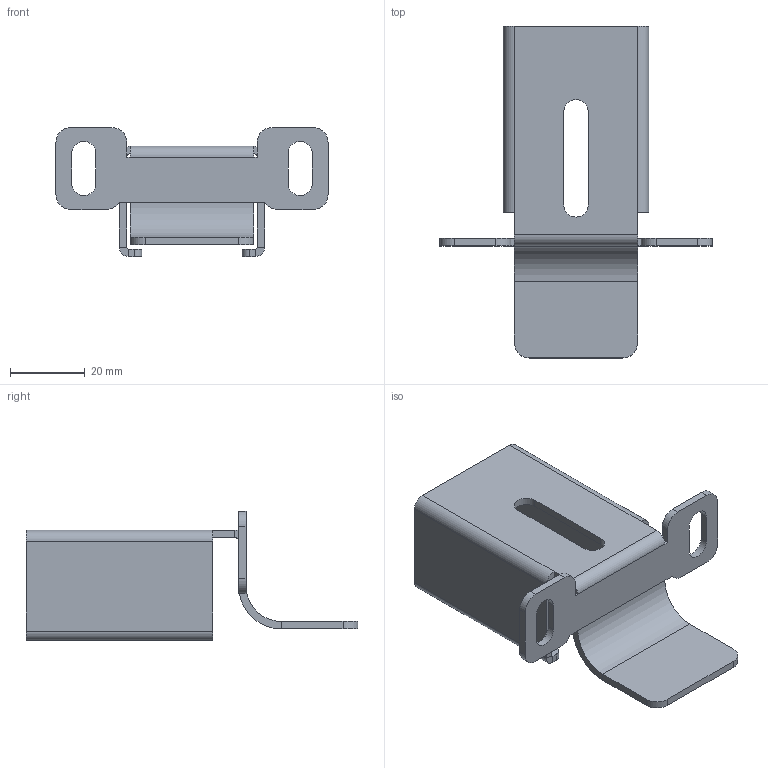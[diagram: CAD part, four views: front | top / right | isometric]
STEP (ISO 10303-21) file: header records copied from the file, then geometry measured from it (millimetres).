
FILE_DESCRIPTION (( 'STEP AP203' ), '1' );
FILE_NAME ('800.029.126.STEP', '2015-10-13T14:19:23', ( '' ), ( '' ), 'SwSTEP 2.0', 'SolidWorks 2012', '' );
FILE_SCHEMA (( 'CONFIG_CONTROL_DESIGN' ));
Length unit declared in the file: millimetre
Products named in the file (1): 800.029.126
Bounding box: 73 x 89 x 34.6 mm (x, y, z)
Volume: 14658.5 mm3; surface area: 15974.9 mm2
Topology: 1 solids, 1 shells, 94 faces, 228 edges, 136 vertices
Faces by surface type: plane 60, cylinder 34
Entity records: 2785 total; most frequent: DIRECTION 486, CARTESIAN_POINT 459, ORIENTED_EDGE 456, EDGE_CURVE 228, AXIS2_PLACEMENT_3D 163, LINE 160, VECTOR 160, VERTEX_POINT 136
